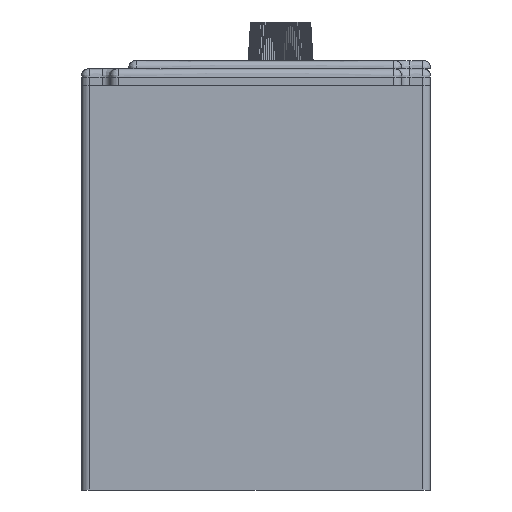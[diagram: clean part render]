
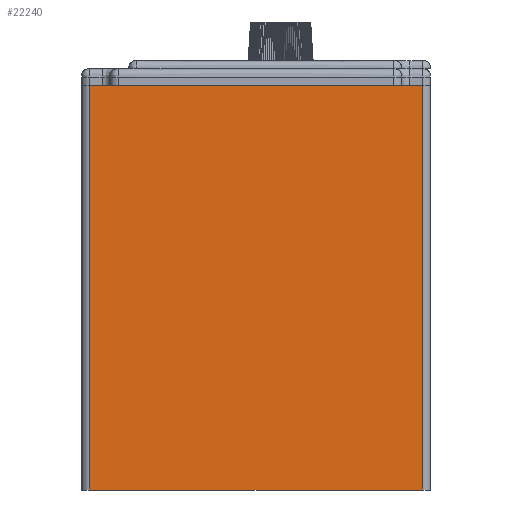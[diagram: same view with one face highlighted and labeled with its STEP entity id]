
A CAD part, front view. The second image highlights one B-rep face of the part: STEP entity #22240.
In plain terms, the highlighted planar face has unit normal (0, -1, 0).
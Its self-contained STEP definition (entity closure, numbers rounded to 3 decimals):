
#1210=PLANE('',#23603);
#2092=FACE_OUTER_BOUND('',#3356,.T.);
#3356=EDGE_LOOP('',(#15727,#15728,#15729,#15730));
#4800=LINE('',#30590,#7148);
#4801=LINE('',#30593,#7149);
#4802=LINE('',#30595,#7150);
#4803=LINE('',#30596,#7151);
#7148=VECTOR('',#25386,10.);
#7149=VECTOR('',#25389,10.);
#7150=VECTOR('',#25390,10.);
#7151=VECTOR('',#25391,10.);
#9897=VERTEX_POINT('',#30583);
#9900=VERTEX_POINT('',#30588);
#9901=VERTEX_POINT('',#30592);
#9902=VERTEX_POINT('',#30594);
#12213=EDGE_CURVE('',#9900,#9897,#4800,.T.);
#12214=EDGE_CURVE('',#9901,#9900,#4801,.T.);
#12215=EDGE_CURVE('',#9902,#9901,#4802,.T.);
#12216=EDGE_CURVE('',#9897,#9902,#4803,.T.);
#15727=ORIENTED_EDGE('',*,*,#12213,.F.);
#15728=ORIENTED_EDGE('',*,*,#12214,.F.);
#15729=ORIENTED_EDGE('',*,*,#12215,.F.);
#15730=ORIENTED_EDGE('',*,*,#12216,.F.);
#22240=ADVANCED_FACE('',(#2092),#1210,.T.);
#23603=AXIS2_PLACEMENT_3D('',#30591,#25387,#25388);
#25386=DIRECTION('',(0.,0.,-1.));
#25387=DIRECTION('center_axis',(0.,-1.,0.));
#25388=DIRECTION('ref_axis',(0.,0.,-1.));
#25389=DIRECTION('',(1.,0.,0.));
#25390=DIRECTION('',(0.,0.,1.));
#25391=DIRECTION('',(-1.,0.,0.));
#30583=CARTESIAN_POINT('',(40.5,0.,0.));
#30588=CARTESIAN_POINT('',(40.5,0.,98.6));
#30590=CARTESIAN_POINT('',(40.5,0.,73.95));
#30591=CARTESIAN_POINT('Origin',(0.,0.,98.6));
#30592=CARTESIAN_POINT('',(-40.5,0.,98.6));
#30593=CARTESIAN_POINT('',(0.,0.,98.6));
#30594=CARTESIAN_POINT('',(-40.5,0.,0.));
#30595=CARTESIAN_POINT('',(-40.5,0.,73.95));
#30596=CARTESIAN_POINT('',(0.,0.,0.));
